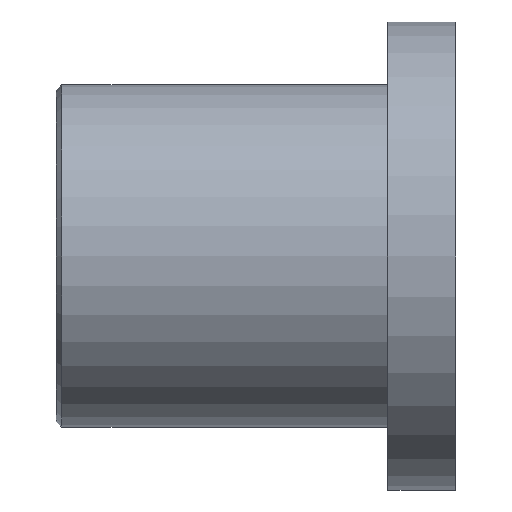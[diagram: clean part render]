
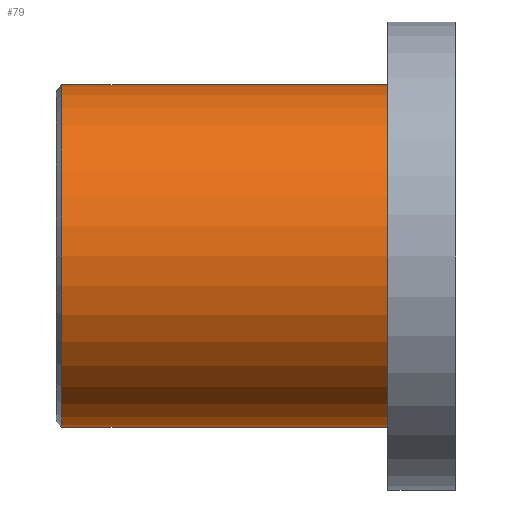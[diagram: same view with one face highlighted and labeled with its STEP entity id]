
A CAD part, front view. The second image highlights one B-rep face of the part: STEP entity #79.
In plain terms, the highlighted cylindrical face has radius 60 mm (diameter 120 mm), a full revolution.
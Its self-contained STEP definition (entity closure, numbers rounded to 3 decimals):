
#79=ADVANCED_FACE('',(#117,#118),#119,.T.);
#117=FACE_OUTER_BOUND('',#188,.T.);
#118=FACE_OUTER_BOUND('',#189,.T.);
#119=CYLINDRICAL_SURFACE('',#190,60.0);
#188=EDGE_LOOP('',(#267));
#189=EDGE_LOOP('',(#268));
#190=AXIS2_PLACEMENT_3D('',#269,#270,#271);
#267=ORIENTED_EDGE('',*,*,#364,.T.);
#268=ORIENTED_EDGE('',*,*,#363,.F.);
#269=CARTESIAN_POINT('',(-141.0,0.0,0.0));
#270=DIRECTION('',(-1.0,-0.0,-0.0));
#271=DIRECTION('',(0.0,0.0,-1.0));
#363=EDGE_CURVE('',#399,#399,#400,.T.);
#364=EDGE_CURVE('',#401,#401,#402,.T.);
#399=VERTEX_POINT('',#449);
#400=CIRCLE('',#450,60.0);
#401=VERTEX_POINT('',#451);
#402=CIRCLE('',#452,60.0);
#449=CARTESIAN_POINT('',(-25.0,0.0,-60.0));
#450=AXIS2_PLACEMENT_3D('',#510,#511,#512);
#451=CARTESIAN_POINT('',(-139.0,0.0,-60.0));
#452=AXIS2_PLACEMENT_3D('',#513,#514,#515);
#510=CARTESIAN_POINT('',(-25.0,0.0,0.0));
#511=DIRECTION('',(1.0,0.0,0.0));
#512=DIRECTION('',(0.0,0.0,-1.0));
#513=CARTESIAN_POINT('',(-139.0,0.0,0.0));
#514=DIRECTION('',(1.0,0.0,0.0));
#515=DIRECTION('',(0.0,0.0,-1.0));
